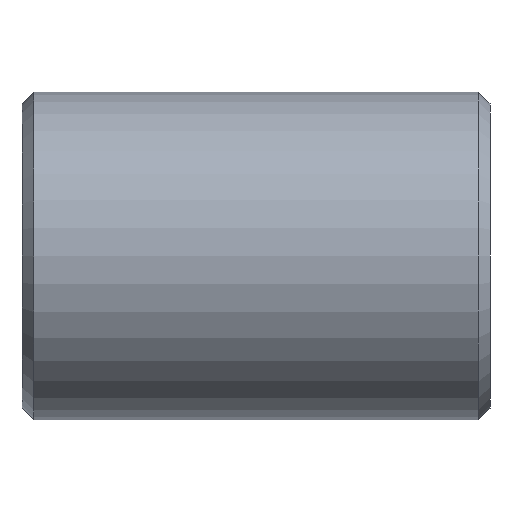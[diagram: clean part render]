
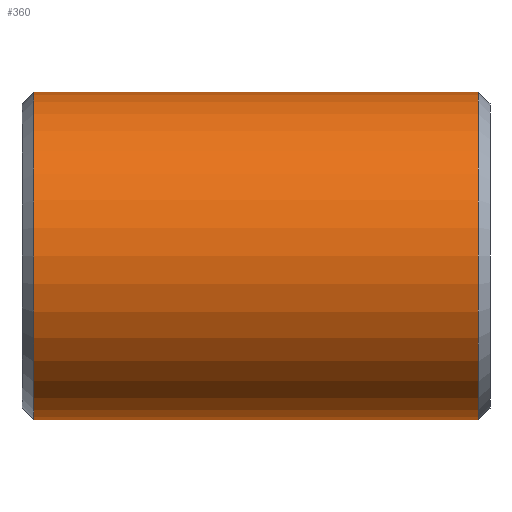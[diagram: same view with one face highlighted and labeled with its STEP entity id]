
A CAD part, front view. The second image highlights one B-rep face of the part: STEP entity #360.
In plain terms, the highlighted cylindrical face has radius 28 mm (diameter 56 mm), a partial arc.
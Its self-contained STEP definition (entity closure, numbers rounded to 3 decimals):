
#12 = VERTEX_POINT ( 'NONE', #446 ) ;
#23 = CARTESIAN_POINT ( 'NONE',  ( 2., 0., 0. ) ) ;
#29 = VERTEX_POINT ( 'NONE', #415 ) ;
#38 = DIRECTION ( 'NONE',  ( -1., 0., 0. ) ) ;
#43 = EDGE_CURVE ( 'NONE', #205, #417, #153, .T. ) ;
#44 = AXIS2_PLACEMENT_3D ( 'NONE', #252, #38, #421 ) ;
#60 = LINE ( 'NONE', #169, #117 ) ;
#100 = ORIENTED_EDGE ( 'NONE', *, *, #43, .T. ) ;
#113 = VECTOR ( 'NONE', #236, 1000. ) ;
#117 = VECTOR ( 'NONE', #258, 1000. ) ;
#134 = CARTESIAN_POINT ( 'NONE',  ( 78., 0., 28. ) ) ;
#146 = DIRECTION ( 'NONE',  ( 0., 0., 1. ) ) ;
#147 = DIRECTION ( 'NONE',  ( -1., 0., 0. ) ) ;
#153 = LINE ( 'NONE', #210, #113 ) ;
#163 = ORIENTED_EDGE ( 'NONE', *, *, #400, .T. ) ;
#169 = CARTESIAN_POINT ( 'NONE',  ( 0., 0., -28. ) ) ;
#175 = FACE_OUTER_BOUND ( 'NONE', #286, .T. ) ;
#201 = AXIS2_PLACEMENT_3D ( 'NONE', #319, #147, #146 ) ;
#205 = VERTEX_POINT ( 'NONE', #134 ) ;
#206 = EDGE_CURVE ( 'NONE', #12, #29, #60, .T. ) ;
#210 = CARTESIAN_POINT ( 'NONE',  ( 0., 0., 28. ) ) ;
#236 = DIRECTION ( 'NONE',  ( -1., 0., 0. ) ) ;
#244 = ORIENTED_EDGE ( 'NONE', *, *, #206, .F. ) ;
#252 = CARTESIAN_POINT ( 'NONE',  ( 0., 0., 0. ) ) ;
#258 = DIRECTION ( 'NONE',  ( -1., 0., 0. ) ) ;
#283 = CYLINDRICAL_SURFACE ( 'NONE', #44, 28. ) ;
#286 = EDGE_LOOP ( 'NONE', ( #244, #335, #100, #163 ) ) ;
#296 = CIRCLE ( 'NONE', #410, 28. ) ;
#301 = CARTESIAN_POINT ( 'NONE',  ( 2., 0., 28. ) ) ;
#309 = EDGE_CURVE ( 'NONE', #12, #205, #389, .T. ) ;
#319 = CARTESIAN_POINT ( 'NONE',  ( 78., 0., 0. ) ) ;
#335 = ORIENTED_EDGE ( 'NONE', *, *, #309, .T. ) ;
#360 = ADVANCED_FACE ( 'NONE', ( #175 ), #283, .T. ) ;
#389 = CIRCLE ( 'NONE', #201, 28. ) ;
#400 = EDGE_CURVE ( 'NONE', #417, #29, #296, .T. ) ;
#410 = AXIS2_PLACEMENT_3D ( 'NONE', #23, #412, #431 ) ;
#412 = DIRECTION ( 'NONE',  ( 1., 0., 0. ) ) ;
#415 = CARTESIAN_POINT ( 'NONE',  ( 2., 0., -28. ) ) ;
#417 = VERTEX_POINT ( 'NONE', #301 ) ;
#421 = DIRECTION ( 'NONE',  ( 0., 0., 1. ) ) ;
#431 = DIRECTION ( 'NONE',  ( 0., 0., -1. ) ) ;
#446 = CARTESIAN_POINT ( 'NONE',  ( 78., 0., -28. ) ) ;
